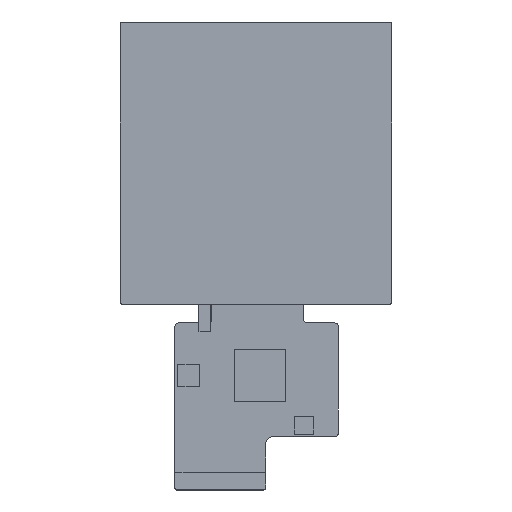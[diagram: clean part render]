
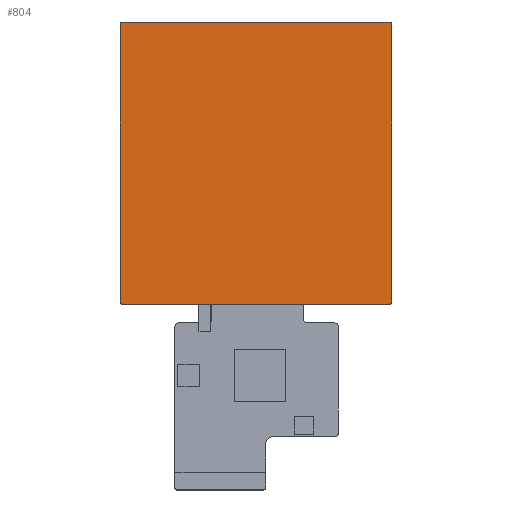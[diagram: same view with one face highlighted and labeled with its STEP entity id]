
A CAD part, top view. The second image highlights one B-rep face of the part: STEP entity #804.
In plain terms, the highlighted planar face has unit normal (0, 0, 1).
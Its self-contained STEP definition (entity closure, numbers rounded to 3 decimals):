
#1=DIRECTION('',(-1.,0.,0.));
#2=VECTOR('',#1,75.4);
#3=CARTESIAN_POINT('',(37.7,37.538,-0.925));
#4=LINE('',#3,#2);
#5=CARTESIAN_POINT('',(37.7,37.038,-0.925));
#6=DIRECTION('',(0.,0.,-1.));
#7=DIRECTION('',(0.,1.,0.));
#8=AXIS2_PLACEMENT_3D('',#5,#6,#7);
#10=CARTESIAN_POINT('',(37.7,-41.362,-0.925));
#11=DIRECTION('',(0.,0.,-1.));
#12=DIRECTION('',(1.,0.,0.));
#13=AXIS2_PLACEMENT_3D('',#10,#11,#12);
#15=CARTESIAN_POINT('',(-37.7,-41.362,-0.925));
#16=DIRECTION('',(0.,0.,-1.));
#17=DIRECTION('',(0.,-1.,0.));
#18=AXIS2_PLACEMENT_3D('',#15,#16,#17);
#20=CARTESIAN_POINT('',(-37.7,37.038,-0.925));
#21=DIRECTION('',(0.,0.,-1.));
#22=DIRECTION('',(-1.,0.,0.));
#23=AXIS2_PLACEMENT_3D('',#20,#21,#22);
#77=DIRECTION('',(0.,1.,0.));
#78=VECTOR('',#77,78.4);
#79=CARTESIAN_POINT('',(38.2,-41.362,-0.925));
#80=LINE('',#79,#78);
#81=DIRECTION('',(1.,0.,0.));
#82=VECTOR('',#81,75.4);
#83=CARTESIAN_POINT('',(-37.7,-41.862,-0.925));
#84=LINE('',#83,#82);
#109=DIRECTION('',(0.,-1.,0.));
#110=VECTOR('',#109,78.4);
#111=CARTESIAN_POINT('',(-38.2,37.038,-0.925));
#112=LINE('',#111,#110);
#582=CARTESIAN_POINT('',(37.7,37.538,-0.925));
#583=CARTESIAN_POINT('',(-37.7,37.538,-0.925));
#584=VERTEX_POINT('',#582);
#585=VERTEX_POINT('',#583);
#590=CARTESIAN_POINT('',(38.2,37.038,-0.925));
#591=VERTEX_POINT('',#590);
#592=CARTESIAN_POINT('',(38.2,-41.362,-0.925));
#593=VERTEX_POINT('',#592);
#594=CARTESIAN_POINT('',(37.7,-41.862,-0.925));
#595=VERTEX_POINT('',#594);
#596=CARTESIAN_POINT('',(-37.7,-41.862,-0.925));
#597=VERTEX_POINT('',#596);
#598=CARTESIAN_POINT('',(-38.2,-41.362,-0.925));
#599=VERTEX_POINT('',#598);
#600=CARTESIAN_POINT('',(-38.2,37.038,-0.925));
#601=VERTEX_POINT('',#600);
#782=CARTESIAN_POINT('',(0.,0.,-0.925));
#783=DIRECTION('',(0.,0.,1.));
#784=DIRECTION('',(1.,0.,0.));
#785=AXIS2_PLACEMENT_3D('',#782,#783,#784);
#786=PLANE('',#785);
#787=ORIENTED_EDGE('',*,*,#771,.F.);
#789=ORIENTED_EDGE('',*,*,#788,.T.);
#791=ORIENTED_EDGE('',*,*,#790,.F.);
#793=ORIENTED_EDGE('',*,*,#792,.T.);
#795=ORIENTED_EDGE('',*,*,#794,.F.);
#797=ORIENTED_EDGE('',*,*,#796,.T.);
#799=ORIENTED_EDGE('',*,*,#798,.F.);
#801=ORIENTED_EDGE('',*,*,#800,.T.);
#802=EDGE_LOOP('',(#787,#789,#791,#793,#795,#797,#799,#801));
#803=FACE_OUTER_BOUND('',#802,.F.);
#9=CIRCLE('',#8,0.5);
#14=CIRCLE('',#13,0.5);
#19=CIRCLE('',#18,0.5);
#24=CIRCLE('',#23,0.5);
#771=EDGE_CURVE('',#584,#585,#4,.T.);
#788=EDGE_CURVE('',#584,#591,#9,.T.);
#790=EDGE_CURVE('',#593,#591,#80,.T.);
#792=EDGE_CURVE('',#593,#595,#14,.T.);
#794=EDGE_CURVE('',#597,#595,#84,.T.);
#796=EDGE_CURVE('',#597,#599,#19,.T.);
#798=EDGE_CURVE('',#601,#599,#112,.T.);
#800=EDGE_CURVE('',#601,#585,#24,.T.);
#804=ADVANCED_FACE('',(#803),#786,.T.);
